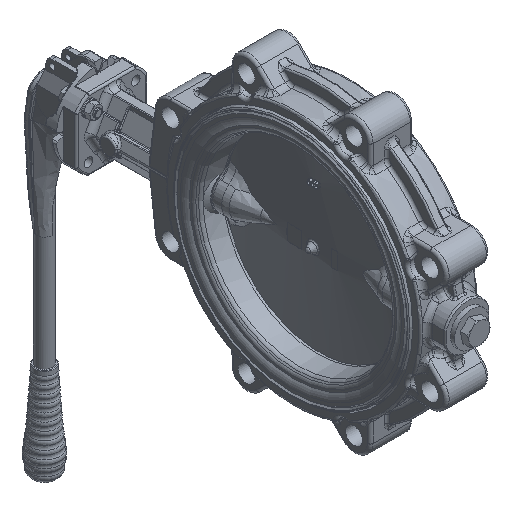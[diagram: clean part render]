
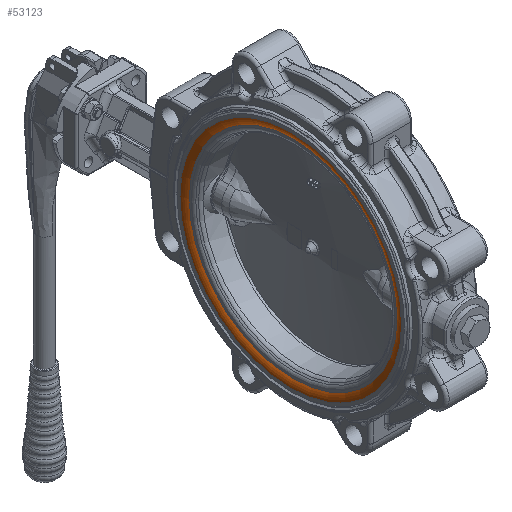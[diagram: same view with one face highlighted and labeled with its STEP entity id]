
A CAD part, isometric view. The second image highlights one B-rep face of the part: STEP entity #53123.
In plain terms, the highlighted toroidal (fillet/blend) face has major radius 116.331 mm and minor radius 12 mm.
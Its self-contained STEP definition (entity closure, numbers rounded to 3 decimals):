
#6856=CARTESIAN_POINT('',(-32.5,0.,-116.331));
#6857=VERTEX_POINT('',#6856);
#6858=CARTESIAN_POINT('',(-32.5,0.,0.));
#6859=DIRECTION('',(1.0,0.0,0.0));
#6860=DIRECTION('',(0.0,0.0,-1.0));
#6861=AXIS2_PLACEMENT_3D('',#6858,#6859,#6860);
#6862=CIRCLE('',#6861,116.331);
#6863=EDGE_CURVE('',#6857,#6857,#6862,.T.);
#6873=CARTESIAN_POINT('',(-30.,0.,-109.));
#6874=VERTEX_POINT('',#6873);
#6875=CARTESIAN_POINT('',(-30.,0.,0.));
#6876=DIRECTION('',(1.0,0.0,0.0));
#6877=DIRECTION('',(0.0,0.0,-1.0));
#6878=AXIS2_PLACEMENT_3D('',#6875,#6876,#6877);
#6879=CIRCLE('',#6878,109.);
#6880=EDGE_CURVE('',#6874,#6874,#6879,.T.);
#53112=CARTESIAN_POINT('',(-20.5,0.,0.));
#53113=DIRECTION('',(1.0,0.0,0.0));
#53114=DIRECTION('',(0.0,0.0,-1.0));
#53115=AXIS2_PLACEMENT_3D('',#53112,#53113,#53114);
#53116=TOROIDAL_SURFACE('',#53115,116.331,12.);
#53117=ORIENTED_EDGE('',*,*,#6880,.T.);
#53118=EDGE_LOOP('',(#53117));
#53119=FACE_OUTER_BOUND('',#53118,.T.);
#53120=ORIENTED_EDGE('',*,*,#6863,.F.);
#53121=EDGE_LOOP('',(#53120));
#53122=FACE_BOUND('',#53121,.T.);
#53123=ADVANCED_FACE('',(#53119,#53122),#53116,.T.);
